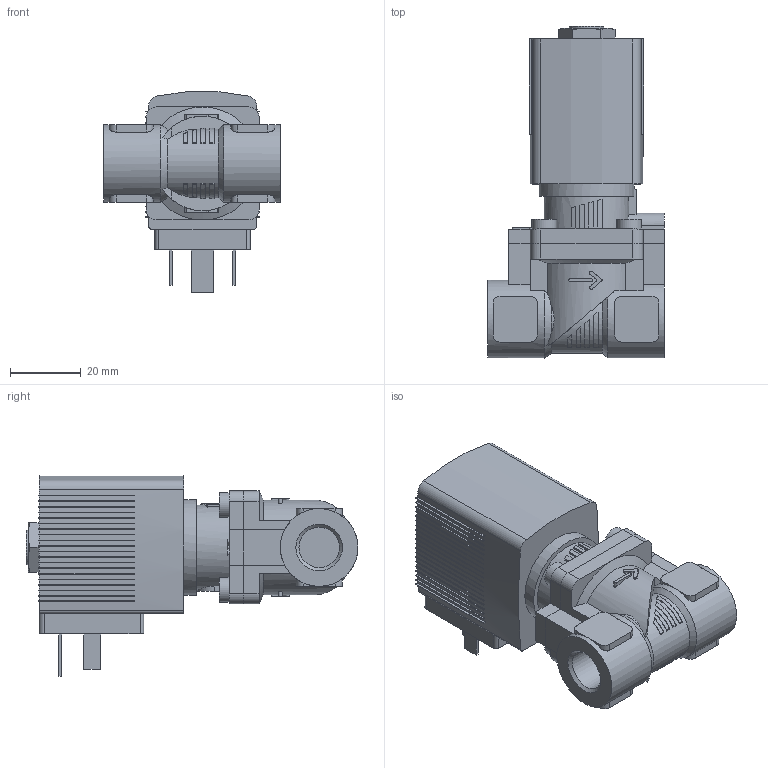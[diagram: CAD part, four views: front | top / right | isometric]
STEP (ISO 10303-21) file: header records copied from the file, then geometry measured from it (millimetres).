
FILE_DESCRIPTION(/* description */ ('STEP AP214'),/* implementation_level */ '2;1');
FILE_NAME(/* name */ '6281-373884-2_2-Way_Solenoid_Valve__Servo-assisted__General_Purpose',/* time_stamp */ '2024-05-10T13:19:35+02:00',/* author */ ('License CC BY-ND 4.0'),/* organization */ ('CADENAS'),/* preprocessor_version */ 'ST-DEVELOPER v19.3',/* originating_system */ 'PARTsolutions',/* authorisation */ ' ');
FILE_SCHEMA (('AUTOMOTIVE_DESIGN {1 0 10303 214 3 1 1}'));
Length unit declared in the file: millimetre
Products named in the file (4): 6281-373884-2/2-Way Solenoid Valve, Servo-assisted, General Purpose; 5281ev100MS2/2-Wege-Magnetventil mit Servomembran-Deckel   ; 6213-10G1/4MS-Gehaeuse-; AC10ex-5OO-Plan-Coil
Assembly tree (3 placements, depth 2):
  6281-373884-2/2-Way Solenoid Valve, Servo-assisted, General Purpose
    5281ev100MS2/2-Wege-Magnetventil mit Servomembran-Deckel   
    6213-10G1/4MS-Gehaeuse-
    AC10ex-5OO-Plan-Coil
Bounding box: 50 x 94 x 56.84 mm (x, y, z)
Volume: 93493.8 mm3; surface area: 22760.2 mm2
Topology: 3 solids, 3 shells, 522 faces, 1444 edges, 958 vertices
Faces by surface type: plane 424, cylinder 85, cone 13
Full cylindrical faces by diameter (mm): 2.013 x1, 7 x4, 9.74 x1, 11.445 x2, 22 x1, 27 x1
Entity records: 19192 total; most frequent: CARTESIAN_POINT 3142, ORIENTED_EDGE 2848, DIRECTION 2724, EDGE_CURVE 1424, LINE 1050, VECTOR 1050, VERTEX_POINT 951, AXIS2_PLACEMENT_3D 837
